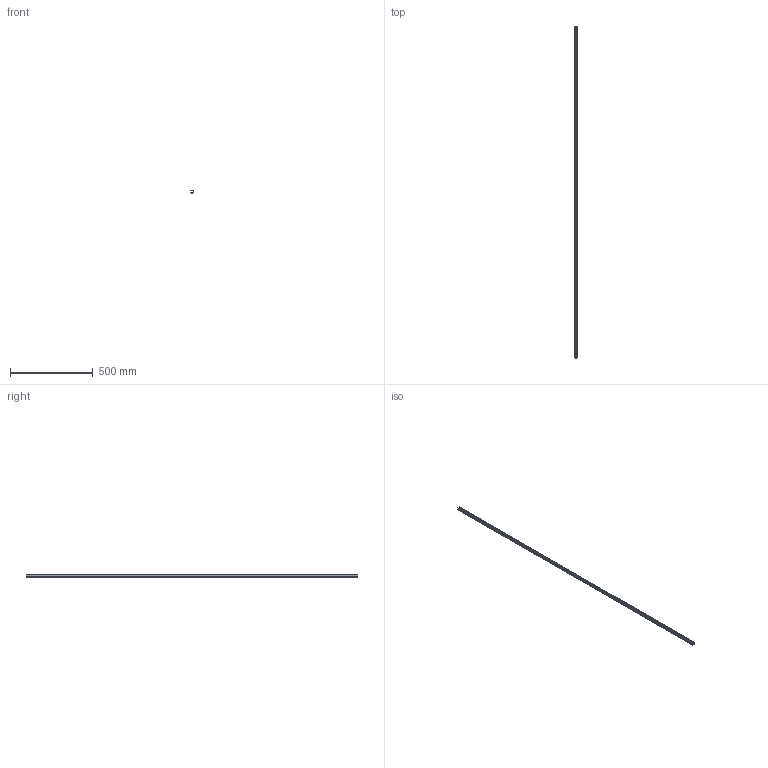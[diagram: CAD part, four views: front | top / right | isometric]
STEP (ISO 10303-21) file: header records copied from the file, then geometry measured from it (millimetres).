
FILE_DESCRIPTION(/* description */ ('Bodenfuehrungsschiene Nr.10 / 2m'),/* implementation_level */ '2;1');
FILE_NAME(/* name */ 'D:\Public\STP\010337122-TP.stp',/* time_stamp */ '2020-05-13T15:24:06+02:00',/* author */ ('H.Lesti'),/* organization */ (''),/* preprocessor_version */ 'ST-DEVELOPER v17.2',/* originating_system */ 'Autodesk Inventor 2019',/* authorisation */ '');
FILE_SCHEMA (('AUTOMOTIVE_DESIGN { 1 0 10303 214 3 1 1 }'));
Length unit declared in the file: millimetre
Products named in the file (1): 010337122
Bounding box: 15 x 2000 x 16.5 mm (x, y, z)
Volume: 157016.9 mm3; surface area: 165325.7 mm2
Topology: 1 solids, 1 shells, 83 faces, 212 edges, 128 vertices
Faces by surface type: plane 35, torus 16, bspline 16, cylinder 8, cone 8
Full cylindrical faces by diameter (mm): 6 x4
Entity records: 3661 total; most frequent: CARTESIAN_POINT 1654, ORIENTED_EDGE 424, DIRECTION 404, EDGE_CURVE 212, AXIS2_PLACEMENT_3D 164, VERTEX_POINT 128, CIRCLE 96, EDGE_LOOP 88
